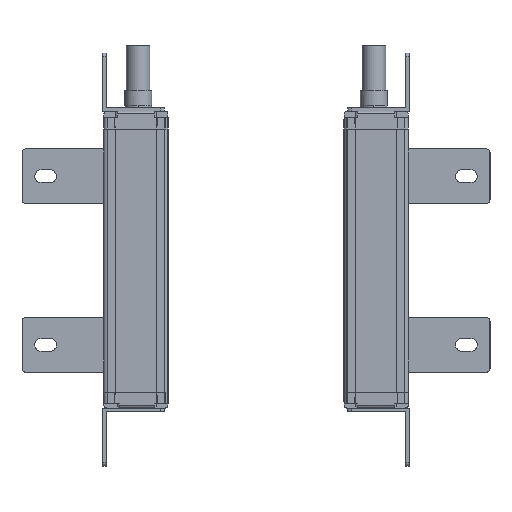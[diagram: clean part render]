
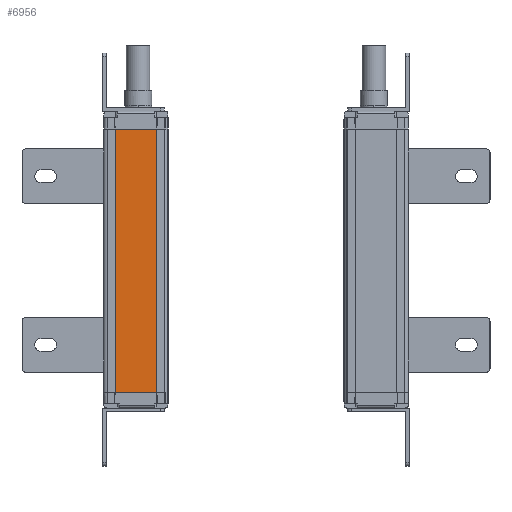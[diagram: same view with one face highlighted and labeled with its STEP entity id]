
A CAD part, left-side view. The second image highlights one B-rep face of the part: STEP entity #6956.
In plain terms, the highlighted planar face has unit normal (-1, 0, 0).
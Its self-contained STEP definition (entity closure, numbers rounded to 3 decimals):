
#953=FACE_OUTER_BOUND('',#9034,.T.);
#2188=LINE('',#33710,#4326);
#2290=LINE('',#34050,#4428);
#2291=LINE('',#34052,#4429);
#2292=LINE('',#34054,#4430);
#4326=VECTOR('',#26897,1.);
#4428=VECTOR('',#27185,1.);
#4429=VECTOR('',#27188,1.);
#4430=VECTOR('',#27189,1.);
#6178=PLANE('',#23723);
#6956=ADVANCED_FACE('',(#953),#6178,.T.);
#9034=EDGE_LOOP('',(#11681,#11682,#11683,#11684));
#11681=ORIENTED_EDGE('',*,*,#19828,.F.);
#11682=ORIENTED_EDGE('',*,*,#19829,.T.);
#11683=ORIENTED_EDGE('',*,*,#19830,.T.);
#11684=ORIENTED_EDGE('',*,*,#19658,.F.);
#17203=VERTEX_POINT('',#33709);
#17204=VERTEX_POINT('',#33711);
#17348=VERTEX_POINT('',#34049);
#17349=VERTEX_POINT('',#34053);
#19658=EDGE_CURVE('',#17203,#17204,#2188,.T.);
#19828=EDGE_CURVE('',#17348,#17203,#2290,.T.);
#19829=EDGE_CURVE('',#17348,#17349,#2291,.T.);
#19830=EDGE_CURVE('',#17349,#17204,#2292,.T.);
#23723=AXIS2_PLACEMENT_3D('',#34055,#27190,#27191);
#26897=DIRECTION('',(0.,-1.,0.));
#27185=DIRECTION('',(0.,0.,1.));
#27188=DIRECTION('',(0.,-1.,0.));
#27189=DIRECTION('',(0.,0.,1.));
#27190=DIRECTION('',(-1.,0.,0.));
#27191=DIRECTION('',(0.,-1.,0.));
#33709=CARTESIAN_POINT('',(233.846,104.141,31.645));
#33710=CARTESIAN_POINT('',(233.846,81.141,31.645));
#33711=CARTESIAN_POINT('',(233.846,81.141,31.645));
#34049=CARTESIAN_POINT('',(233.846,104.141,-113.355));
#34050=CARTESIAN_POINT('',(233.846,104.141,-155.355));
#34052=CARTESIAN_POINT('',(233.846,81.141,-113.355));
#34053=CARTESIAN_POINT('',(233.846,81.141,-113.355));
#34054=CARTESIAN_POINT('',(233.846,81.141,-155.355));
#34055=CARTESIAN_POINT('',(233.846,81.141,-50.355));
